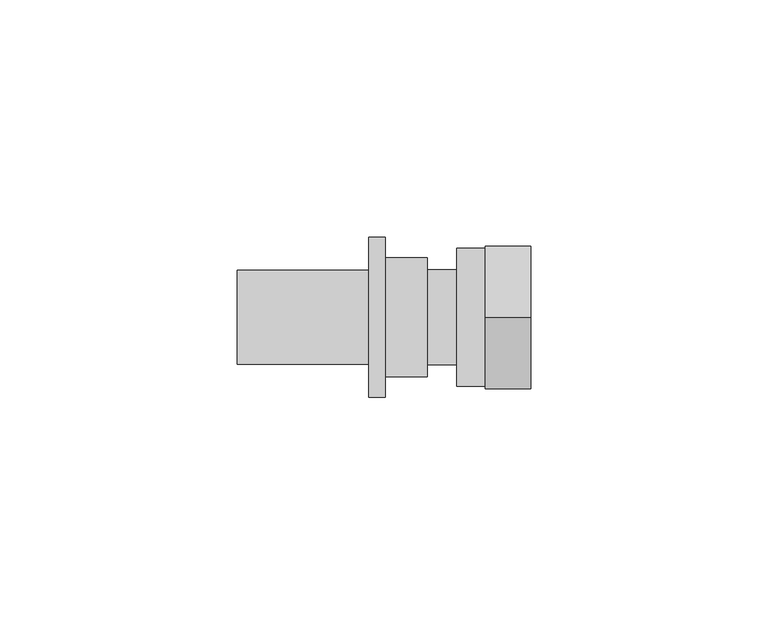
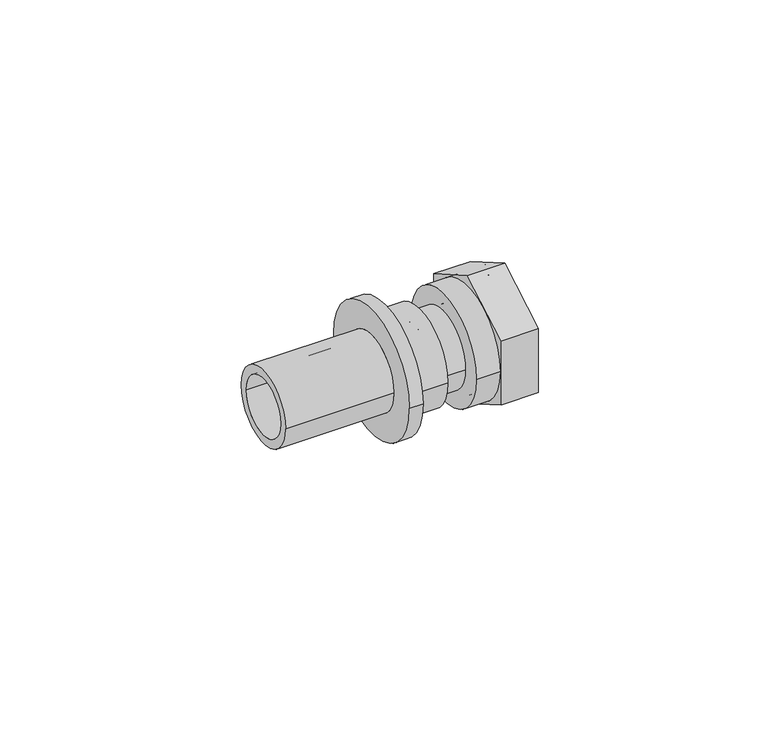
"""IFC4 building model written with IfcOpenShell, lengths in millimetres: pipe fitting geometry, REHAU_RAUTITAN_Adaptor_RX+_union nut : REHAU_RAUTITAN_Adaptor_RX+_union nut."""

from ifc_helpers import new_model, si_unit, point, frame, origin, origin_2d, place, context, project, spatial, polyline, circle_curve, trimmed, segment, composite_curve, outline, extrude, source, transform, mapped, element, save
from ifc_brep_helpers import plane_surface, cylinder_surface, revolved_surface, advanced_brep


def pipe_fitting_33c6310a(model_context):
    return source(origin(), model_context, "Body", "SolidModel", [
        extrude(outline(polyline([(0.0, -17.3205081), (-15.0, -8.660254), (-15.0, 8.660254), (0.0, 17.3205081), (15.0, 8.660254), (15.0, -8.660254), (0.0, -17.3205081)]), holes=[composite_curve([segment(trimmed(circle_curve(origin_2d(), 14.5), [point((-14.5, 0.0))], [point((14.5, 0.0))], True, "CARTESIAN"), True, "CONTINUOUS"), segment(trimmed(circle_curve(origin_2d(), 14.5), [point((14.5, 0.0))], [point((-14.5, 0.0))], True, "CARTESIAN"), True, "CONTINUOUS")], self_intersect=False)]), frame((12.2, 0.0, 0.0), z_axis=(1.0, 0.0, 0.0), x_axis=(0.0, 1.0, 0.0)), (0.0, 0.0, 1.0), 9.5),
        advanced_brep(
        [(21.7, 14.5, 0.0), (21.7, -14.5, 0.0), (6.2, -14.5, 0.0), (6.2, 14.5, 0.0), (9.0, 12.0, 0.0), (9.0, -12.0, 0.0), (21.7, -12.0, 0.0), (21.7, 12.0, 0.0), (6.2, 9.2, 0.0), (6.2, -9.2, 0.0), (9.0, -9.2, 0.0), (9.0, 9.2, 0.0)],
        [
            (0, 1, circle_curve(frame((21.7, 0.0, 0.0), z_axis=(-1.0, 0.0, 0.0), x_axis=(0.0, -1.0, 0.0)), 14.5)),
            (1, 2),
            (2, 3, circle_curve(frame((6.2, 0.0, 0.0), z_axis=(1.0, 0.0, 0.0), x_axis=(0.0, -1.0, 0.0)), 14.5)),
            (3, 0),
            (4, 5, circle_curve(frame((9.0, 0.0, 0.0), z_axis=(-1.0, 0.0, 0.0), x_axis=(0.0, -1.0, 0.0)), 12.0)),
            (5, 6),
            (6, 7, circle_curve(frame((21.7, 0.0, 0.0), z_axis=(1.0, 0.0, 0.0), x_axis=(0.0, -1.0, 0.0)), 12.0)),
            (7, 4),
            (8, 9, circle_curve(frame((6.2, 0.0, 0.0), z_axis=(-1.0, 0.0, 0.0), x_axis=(0.0, -1.0, 0.0)), 9.2)),
            (9, 10),
            (10, 11, circle_curve(frame((9.0, 0.0, 0.0), z_axis=(1.0, 0.0, 0.0), x_axis=(0.0, -1.0, 0.0)), 9.2)),
            (11, 8),
            (1, 0, circle_curve(frame((21.7, 0.0, 0.0), z_axis=(-1.0, 0.0, 0.0), x_axis=(0.0, 1.0, 0.0)), 14.5)),
            (3, 2, circle_curve(frame((6.2, 0.0, 0.0), z_axis=(1.0, 0.0, 0.0), x_axis=(0.0, 1.0, 0.0)), 14.5)),
            (6, 7, circle_curve(frame((21.7, 0.0, 0.0), z_axis=(-1.0, 0.0, 0.0), x_axis=(0.0, 1.0, 0.0)), 12.0)),
            (5, 4, circle_curve(frame((9.0, 0.0, 0.0), z_axis=(-1.0, 0.0, 0.0), x_axis=(0.0, 1.0, 0.0)), 12.0)),
            (10, 11, circle_curve(frame((9.0, 0.0, 0.0), z_axis=(-1.0, 0.0, 0.0), x_axis=(0.0, 1.0, 0.0)), 9.2)),
            (9, 8, circle_curve(frame((6.2, 0.0, 0.0), z_axis=(-1.0, 0.0, 0.0), x_axis=(0.0, 1.0, 0.0)), 9.2)),
        ],
        [
            cylinder_surface(frame((0.0, 0.0, 0.0), z_axis=(1.0, 0.0, 0.0), x_axis=(0.0, -1.0, 0.0)), 14.5),
            revolved_surface(polyline([(21.7, -12.0, 0.0), (9.0, -12.0, 0.0)]), (0.0, 0.0, 0.0), (1.0, 0.0, 0.0)),
            revolved_surface(polyline([(9.0, -9.2, 0.0), (6.2, -9.2, 0.0)]), (0.0, 0.0, 0.0), (1.0, 0.0, 0.0)),
            cylinder_surface(frame((0.0, 0.0, 0.0), z_axis=(1.0, 0.0, 0.0), x_axis=(0.0, 1.0, 0.0)), 14.5),
            plane_surface(frame((21.7, 0.0, 0.0), z_axis=(1.0, 0.0, 0.0), x_axis=(0.0, 1.0, 0.0))),
            revolved_surface(polyline([(21.7, 12.0, 0.0), (9.0, 12.0, 0.0)]), (0.0, 0.0, 0.0), (1.0, 0.0, 0.0)),
            plane_surface(frame((9.0, 0.0, 0.0), z_axis=(1.0, 0.0, 0.0), x_axis=(0.0, 1.0, 0.0))),
            revolved_surface(polyline([(9.0, 9.2, 0.0), (6.2, 9.2, 0.0)]), (0.0, 0.0, 0.0), (1.0, 0.0, 0.0)),
            plane_surface(frame((6.2, 0.0, 0.0), z_axis=(-1.0, 0.0, 0.0), x_axis=(0.0, 1.0, 0.0))),
        ],
        [
            (0, [[1, 2, 3, 4]]),
            (1, [[5, 6, 7, 8]]),
            (2, [[9, 10, 11, 12]]),
            (3, [[13, -4, 14, -2]]),
            (4, [[-13, -1], [15, -7]]),
            (5, [[16, -8, -15, -6]]),
            (6, [[-16, -5], [17, -11]]),
            (7, [[18, -12, -17, -10]]),
            (8, [[-14, -3], [-18, -9]]),
        ],
    ),
        advanced_brep(
        [(9.0, 10.0, 0.0), (9.0, -10.0, 0.0), (0.0, -10.0, 0.0), (0.0, 10.0, 0.0), (12.0, 12.0, 0.0), (12.0, -12.0, 0.0), (9.0, -12.0, 0.0), (9.0, 12.0, 0.0), (1.4730817, 7.6, 0.0), (1.4730817, -7.6, 0.0), (12.0, -7.6, 0.0), (12.0, 7.6, 0.0), (0.0, 5.4264556, 0.0), (0.0, -5.4264556, 0.0), (1.4730817, -5.4264556, 0.0), (1.4730817, 5.4264556, 0.0)],
        [
            (0, 1, circle_curve(frame((9.0, 0.0, 0.0), z_axis=(-1.0, 0.0, 0.0), x_axis=(0.0, -1.0, 0.0)), 10.0)),
            (1, 2),
            (2, 3, circle_curve(frame((0.0, 0.0, 0.0), z_axis=(1.0, 0.0, 0.0), x_axis=(0.0, -1.0, 0.0)), 10.0)),
            (3, 0),
            (4, 5, circle_curve(frame((12.0, 0.0, 0.0), z_axis=(-1.0, 0.0, 0.0), x_axis=(0.0, -1.0, 0.0)), 12.0)),
            (5, 6),
            (6, 7, circle_curve(frame((9.0, 0.0, 0.0), z_axis=(1.0, 0.0, 0.0), x_axis=(0.0, -1.0, 0.0)), 12.0)),
            (7, 4),
            (8, 9, circle_curve(frame((1.4730817, 0.0, 0.0), z_axis=(-1.0, 0.0, 0.0), x_axis=(0.0, -1.0, 0.0)), 7.6)),
            (9, 10),
            (10, 11, circle_curve(frame((12.0, 0.0, 0.0), z_axis=(1.0, 0.0, 0.0), x_axis=(0.0, -1.0, 0.0)), 7.6)),
            (11, 8),
            (2, 3, circle_curve(frame((0.0, 0.0, 0.0), z_axis=(-1.0, 0.0, 0.0), x_axis=(0.0, 1.0, 0.0)), 10.0)),
            (12, 13, circle_curve(frame((0.0, 0.0, 0.0), z_axis=(1.0, 0.0, 0.0), x_axis=(0.0, 1.0, 0.0)), 5.4264556)),
            (13, 12, circle_curve(frame((0.0, 0.0, 0.0), z_axis=(1.0, 0.0, 0.0), x_axis=(0.0, -1.0, 0.0)), 5.4264556)),
            (1, 0, circle_curve(frame((9.0, 0.0, 0.0), z_axis=(-1.0, 0.0, 0.0), x_axis=(0.0, 1.0, 0.0)), 10.0)),
            (6, 7, circle_curve(frame((9.0, 0.0, 0.0), z_axis=(-1.0, 0.0, 0.0), x_axis=(0.0, 1.0, 0.0)), 12.0)),
            (5, 4, circle_curve(frame((12.0, 0.0, 0.0), z_axis=(-1.0, 0.0, 0.0), x_axis=(0.0, 1.0, 0.0)), 12.0)),
            (10, 11, circle_curve(frame((12.0, 0.0, 0.0), z_axis=(-1.0, 0.0, 0.0), x_axis=(0.0, 1.0, 0.0)), 7.6)),
            (9, 8, circle_curve(frame((1.4730817, 0.0, 0.0), z_axis=(-1.0, 0.0, 0.0), x_axis=(0.0, 1.0, 0.0)), 7.6)),
            (13, 14),
            (14, 15, circle_curve(frame((1.4730817, 0.0, 0.0), z_axis=(1.0, 0.0, 0.0), x_axis=(0.0, -1.0, 0.0)), 5.4264556)),
            (15, 12),
            (14, 15, circle_curve(frame((1.4730817, 0.0, 0.0), z_axis=(-1.0, 0.0, 0.0), x_axis=(0.0, 1.0, 0.0)), 5.4264556)),
        ],
        [
            cylinder_surface(frame((0.0, 0.0, 0.0), z_axis=(1.0, 0.0, 0.0), x_axis=(0.0, -1.0, 0.0)), 10.0),
            cylinder_surface(frame((0.0, 0.0, 0.0), z_axis=(1.0, 0.0, 0.0), x_axis=(0.0, -1.0, 0.0)), 12.0),
            revolved_surface(polyline([(12.0, -7.6, 0.0), (1.4730817, -7.6, 0.0)]), (0.0, 0.0, 0.0), (1.0, 0.0, 0.0)),
            plane_surface(frame((0.0, 0.0, 0.0), z_axis=(-1.0, 0.0, 0.0), x_axis=(0.0, 1.0, 0.0))),
            cylinder_surface(frame((0.0, 0.0, 0.0), z_axis=(1.0, 0.0, 0.0), x_axis=(0.0, 1.0, 0.0)), 10.0),
            plane_surface(frame((9.0, 0.0, 0.0), z_axis=(-1.0, 0.0, 0.0), x_axis=(0.0, 1.0, 0.0))),
            cylinder_surface(frame((0.0, 0.0, 0.0), z_axis=(1.0, 0.0, 0.0), x_axis=(0.0, 1.0, 0.0)), 12.0),
            plane_surface(frame((12.0, 0.0, 0.0), z_axis=(1.0, 0.0, 0.0), x_axis=(0.0, 1.0, 0.0))),
            revolved_surface(polyline([(12.0, 7.6, 0.0), (1.4730817, 7.6, 0.0)]), (0.0, 0.0, 0.0), (1.0, 0.0, 0.0)),
            revolved_surface(polyline([(1.4730817, -5.4264556, 0.0), (0.0, -5.4264556, 0.0)]), (0.0, 0.0, 0.0), (1.0, 0.0, 0.0)),
            plane_surface(frame((1.4730817, 0.0, 0.0), z_axis=(1.0, 0.0, 0.0), x_axis=(0.0, 1.0, 0.0))),
            revolved_surface(polyline([(1.4730817, 5.4264556, 0.0), (0.0, 5.4264556, 0.0)]), (0.0, 0.0, 0.0), (1.0, 0.0, 0.0)),
        ],
        [
            (0, [[1, 2, 3, 4]]),
            (1, [[5, 6, 7, 8]]),
            (2, [[9, 10, 11, 12]]),
            (3, [[13, -3], [14, 15]]),
            (4, [[16, -4, -13, -2]]),
            (5, [[17, -7], [-16, -1]]),
            (6, [[18, -8, -17, -6]]),
            (7, [[-18, -5], [19, -11]]),
            (8, [[20, -12, -19, -10]]),
            (9, [[-15, 21, 22, 23]]),
            (10, [[-20, -9], [24, -22]]),
            (11, [[-14, -23, -24, -21]]),
        ],
    ),
        advanced_brep(
        [(0.0, 12.5, 0.0), (0.0, -12.5, 0.0), (-8.85, -12.5, 0.0), (-8.85, 12.5, 0.0), (-40.0, 7.6, 0.0), (-40.0, -7.6, 0.0), (0.0, -7.6, 0.0), (0.0, 7.6, 0.0), (-12.35, 9.875, 0.0), (-12.35, -9.875, 0.0), (-40.0, -9.875, 0.0), (-40.0, 9.875, 0.0), (-8.85, 16.8, 0.0), (-8.85, -16.8, 0.0), (-12.35, -16.8, 0.0), (-12.35, 16.8, 0.0)],
        [
            (0, 1, circle_curve(frame((0.0, 0.0, 0.0), z_axis=(-1.0, 0.0, 0.0), x_axis=(0.0, -1.0, 0.0)), 12.5)),
            (1, 2),
            (2, 3, circle_curve(frame((-8.85, 0.0, 0.0), z_axis=(1.0, 0.0, 0.0), x_axis=(0.0, -1.0, 0.0)), 12.5)),
            (3, 0),
            (4, 5, circle_curve(frame((-40.0, 0.0, 0.0), z_axis=(-1.0, 0.0, 0.0), x_axis=(0.0, -1.0, 0.0)), 7.6)),
            (5, 6),
            (6, 7, circle_curve(frame((0.0, 0.0, 0.0), z_axis=(1.0, 0.0, 0.0), x_axis=(0.0, -1.0, 0.0)), 7.6)),
            (7, 4),
            (8, 9, circle_curve(frame((-12.35, 0.0, 0.0), z_axis=(-1.0, 0.0, 0.0), x_axis=(0.0, -1.0, 0.0)), 9.875)),
            (9, 10),
            (10, 11, circle_curve(frame((-40.0, 0.0, 0.0), z_axis=(1.0, 0.0, 0.0), x_axis=(0.0, -1.0, 0.0)), 9.875)),
            (11, 8),
            (12, 13, circle_curve(frame((-8.85, 0.0, 0.0), z_axis=(-1.0, 0.0, 0.0), x_axis=(0.0, -1.0, 0.0)), 16.8)),
            (13, 14),
            (14, 15, circle_curve(frame((-12.35, 0.0, 0.0), z_axis=(1.0, 0.0, 0.0), x_axis=(0.0, -1.0, 0.0)), 16.8)),
            (15, 12),
            (1, 0, circle_curve(frame((0.0, 0.0, 0.0), z_axis=(-1.0, 0.0, 0.0), x_axis=(0.0, 1.0, 0.0)), 12.5)),
            (3, 2, circle_curve(frame((-8.85, 0.0, 0.0), z_axis=(1.0, 0.0, 0.0), x_axis=(0.0, 1.0, 0.0)), 12.5)),
            (6, 7, circle_curve(frame((0.0, 0.0, 0.0), z_axis=(-1.0, 0.0, 0.0), x_axis=(0.0, 1.0, 0.0)), 7.6)),
            (5, 4, circle_curve(frame((-40.0, 0.0, 0.0), z_axis=(-1.0, 0.0, 0.0), x_axis=(0.0, 1.0, 0.0)), 7.6)),
            (10, 11, circle_curve(frame((-40.0, 0.0, 0.0), z_axis=(-1.0, 0.0, 0.0), x_axis=(0.0, 1.0, 0.0)), 9.875)),
            (9, 8, circle_curve(frame((-12.35, 0.0, 0.0), z_axis=(-1.0, 0.0, 0.0), x_axis=(0.0, 1.0, 0.0)), 9.875)),
            (14, 15, circle_curve(frame((-12.35, 0.0, 0.0), z_axis=(-1.0, 0.0, 0.0), x_axis=(0.0, 1.0, 0.0)), 16.8)),
            (13, 12, circle_curve(frame((-8.85, 0.0, 0.0), z_axis=(-1.0, 0.0, 0.0), x_axis=(0.0, 1.0, 0.0)), 16.8)),
        ],
        [
            cylinder_surface(frame((0.0, 0.0, 0.0), z_axis=(1.0, 0.0, 0.0), x_axis=(0.0, -1.0, 0.0)), 12.5),
            revolved_surface(polyline([(0.0, -7.6, 0.0), (-40.0, -7.6, 0.0)]), (0.0, 0.0, 0.0), (1.0, 0.0, 0.0)),
            cylinder_surface(frame((0.0, 0.0, 0.0), z_axis=(1.0, 0.0, 0.0), x_axis=(0.0, -1.0, 0.0)), 9.875),
            cylinder_surface(frame((0.0, 0.0, 0.0), z_axis=(1.0, 0.0, 0.0), x_axis=(0.0, -1.0, 0.0)), 16.8),
            cylinder_surface(frame((0.0, 0.0, 0.0), z_axis=(1.0, 0.0, 0.0), x_axis=(0.0, 1.0, 0.0)), 12.5),
            plane_surface(frame((0.0, 0.0, 0.0), z_axis=(1.0, 0.0, 0.0), x_axis=(0.0, 1.0, 0.0))),
            revolved_surface(polyline([(0.0, 7.6, 0.0), (-40.0, 7.6, 0.0)]), (0.0, 0.0, 0.0), (1.0, 0.0, 0.0)),
            plane_surface(frame((-40.0, 0.0, 0.0), z_axis=(-1.0, 0.0, 0.0), x_axis=(0.0, 1.0, 0.0))),
            cylinder_surface(frame((0.0, 0.0, 0.0), z_axis=(1.0, 0.0, 0.0), x_axis=(0.0, 1.0, 0.0)), 9.875),
            plane_surface(frame((-12.35, 0.0, 0.0), z_axis=(-1.0, 0.0, 0.0), x_axis=(0.0, 1.0, 0.0))),
            cylinder_surface(frame((0.0, 0.0, 0.0), z_axis=(1.0, 0.0, 0.0), x_axis=(0.0, 1.0, 0.0)), 16.8),
            plane_surface(frame((-8.85, 0.0, 0.0), z_axis=(1.0, 0.0, 0.0), x_axis=(0.0, 1.0, 0.0))),
        ],
        [
            (0, [[1, 2, 3, 4]]),
            (1, [[5, 6, 7, 8]]),
            (2, [[9, 10, 11, 12]]),
            (3, [[13, 14, 15, 16]]),
            (4, [[17, -4, 18, -2]]),
            (5, [[-17, -1], [19, -7]]),
            (6, [[20, -8, -19, -6]]),
            (7, [[21, -11], [-20, -5]]),
            (8, [[22, -12, -21, -10]]),
            (9, [[23, -15], [-22, -9]]),
            (10, [[24, -16, -23, -14]]),
            (11, [[-24, -13], [-18, -3]]),
        ],
    ),
    ])


if __name__ == "__main__":
    model = new_model("IFC4")
    model_context = context("Model", 3, world=origin())
    ifc_project = project(units=[si_unit("LENGTHUNIT", "METRE", prefix="MILLI")], contexts=[model_context])
    site = spatial("IfcSite", under=ifc_project)
    building = spatial("IfcBuilding", under=site)
    placement = place(None, origin())
    pipe_fitting_shape = pipe_fitting_33c6310a(model_context)
    element("IfcPipeFitting", 1, ObjectType="REHAU_RAUTITAN_Adaptor_RX+_union nut : REHAU_RAUTITAN_Adaptor_RX+_union nut", at=placement, inside=building, context=model_context, shape_type="MappedRepresentation", body=[
        mapped(pipe_fitting_shape, transform((0.0, 0.0, 0.0), x_axis=(1.0, 0.0, 0.0), y_axis=(0.0, 1.0, 0.0), z_axis=(0.0, 0.0, 1.0))),
    ])
    save(model, "model.ifc")
